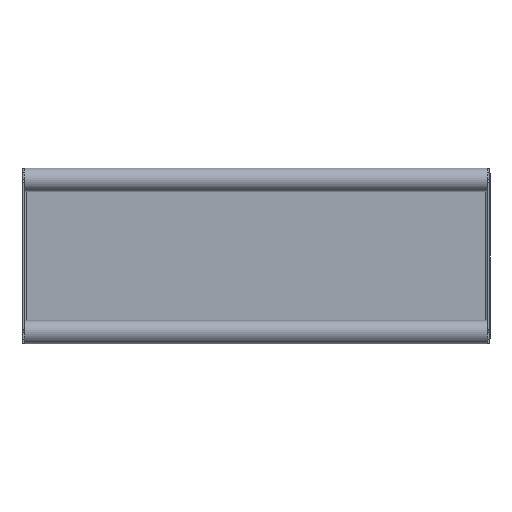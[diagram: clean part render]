
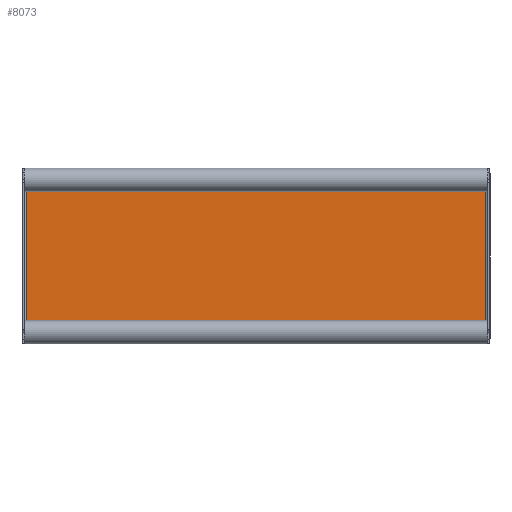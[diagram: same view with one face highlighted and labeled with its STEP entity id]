
A CAD part, front view. The second image highlights one B-rep face of the part: STEP entity #8073.
In plain terms, the highlighted planar face has unit normal (0, -1, 0).
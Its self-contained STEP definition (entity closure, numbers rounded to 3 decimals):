
#74 = DIRECTION ( 'NONE',  ( 0., 0., 1. ) ) ;
#166 = DIRECTION ( 'NONE',  ( 0., 0., 1. ) ) ;
#194 = DIRECTION ( 'NONE',  ( 0., 0., 1. ) ) ;
#230 = AXIS2_PLACEMENT_3D ( 'NONE', #394, #3504, #4335 ) ;
#317 = CARTESIAN_POINT ( 'NONE',  ( -199., -2., -74. ) ) ;
#394 = CARTESIAN_POINT ( 'NONE',  ( 199., -2., 74. ) ) ;
#583 = CARTESIAN_POINT ( 'NONE',  ( 196., -2., -70. ) ) ;
#712 = ORIENTED_EDGE ( 'NONE', *, *, #8067, .F. ) ;
#731 = DIRECTION ( 'NONE',  ( 0., -1., 0. ) ) ;
#843 = CARTESIAN_POINT ( 'NONE',  ( -199., -2., 71. ) ) ;
#874 = CARTESIAN_POINT ( 'NONE',  ( 195., -2., -71. ) ) ;
#1528 = CARTESIAN_POINT ( 'NONE',  ( -199., -2., -71. ) ) ;
#1535 = CIRCLE ( 'NONE', #6784, 5. ) ;
#1966 = VERTEX_POINT ( 'NONE', #874 ) ;
#1968 = VERTEX_POINT ( 'NONE', #583 ) ;
#2005 = AXIS2_PLACEMENT_3D ( 'NONE', #2313, #4849, #7141 ) ;
#2148 = LINE ( 'NONE', #4370, #5797 ) ;
#2250 = CARTESIAN_POINT ( 'NONE',  ( -196., -2., 70. ) ) ;
#2272 = ORIENTED_EDGE ( 'NONE', *, *, #8806, .T. ) ;
#2313 = CARTESIAN_POINT ( 'NONE',  ( -199., -2., -74. ) ) ;
#2323 = CARTESIAN_POINT ( 'NONE',  ( -196., -2., -74. ) ) ;
#2608 = CARTESIAN_POINT ( 'NONE',  ( 195., -2., 71. ) ) ;
#2750 = EDGE_CURVE ( 'NONE', #7307, #5551, #3148, .T. ) ;
#3148 = LINE ( 'NONE', #2323, #4255 ) ;
#3188 = FACE_OUTER_BOUND ( 'NONE', #5214, .T. ) ;
#3201 = VERTEX_POINT ( 'NONE', #7524 ) ;
#3287 = LINE ( 'NONE', #843, #6772 ) ;
#3415 = ORIENTED_EDGE ( 'NONE', *, *, #3912, .F. ) ;
#3486 = CARTESIAN_POINT ( 'NONE',  ( -199., -2., 74. ) ) ;
#3504 = DIRECTION ( 'NONE',  ( 0., -1., 0. ) ) ;
#3815 = ORIENTED_EDGE ( 'NONE', *, *, #8383, .T. ) ;
#3899 = PLANE ( 'NONE',  #2005 ) ;
#3912 = EDGE_CURVE ( 'NONE', #5551, #9307, #8024, .T. ) ;
#4142 = CIRCLE ( 'NONE', #6115, 5. ) ;
#4255 = VECTOR ( 'NONE', #194, 1000. ) ;
#4315 = DIRECTION ( 'NONE',  ( 0., 0., 1. ) ) ;
#4335 = DIRECTION ( 'NONE',  ( 0., 0., 1. ) ) ;
#4370 = CARTESIAN_POINT ( 'NONE',  ( 196., -2., -74. ) ) ;
#4639 = CARTESIAN_POINT ( 'NONE',  ( 199., -2., -74. ) ) ;
#4700 = DIRECTION ( 'NONE',  ( 1., 0., 0. ) ) ;
#4735 = ORIENTED_EDGE ( 'NONE', *, *, #8515, .F. ) ;
#4849 = DIRECTION ( 'NONE',  ( 0., 1., 0. ) ) ;
#5076 = VERTEX_POINT ( 'NONE', #2608 ) ;
#5214 = EDGE_LOOP ( 'NONE', ( #7903, #3815, #6238, #712, #3415, #6766, #4735, #2272 ) ) ;
#5437 = DIRECTION ( 'NONE',  ( 1., 0., 0. ) ) ;
#5548 = CARTESIAN_POINT ( 'NONE',  ( 196., -2., 70. ) ) ;
#5551 = VERTEX_POINT ( 'NONE', #2250 ) ;
#5624 = CIRCLE ( 'NONE', #230, 5. ) ;
#5797 = VECTOR ( 'NONE', #6732, 1000. ) ;
#5964 = VECTOR ( 'NONE', #5437, 1000. ) ;
#6115 = AXIS2_PLACEMENT_3D ( 'NONE', #317, #8146, #166 ) ;
#6238 = ORIENTED_EDGE ( 'NONE', *, *, #7943, .F. ) ;
#6315 = VERTEX_POINT ( 'NONE', #5548 ) ;
#6732 = DIRECTION ( 'NONE',  ( 0., 0., 1. ) ) ;
#6766 = ORIENTED_EDGE ( 'NONE', *, *, #2750, .F. ) ;
#6772 = VECTOR ( 'NONE', #4700, 1000. ) ;
#6784 = AXIS2_PLACEMENT_3D ( 'NONE', #4639, #731, #74 ) ;
#7141 = DIRECTION ( 'NONE',  ( 0., 0., 1. ) ) ;
#7307 = VERTEX_POINT ( 'NONE', #9243 ) ;
#7524 = CARTESIAN_POINT ( 'NONE',  ( -195., -2., -71. ) ) ;
#7903 = ORIENTED_EDGE ( 'NONE', *, *, #9442, .F. ) ;
#7943 = EDGE_CURVE ( 'NONE', #5076, #6315, #5624, .T. ) ;
#8024 = CIRCLE ( 'NONE', #9331, 5. ) ;
#8067 = EDGE_CURVE ( 'NONE', #9307, #5076, #3287, .T. ) ;
#8073 = ADVANCED_FACE ( 'NONE', ( #3188 ), #3899, .F. ) ;
#8146 = DIRECTION ( 'NONE',  ( 0., -1., 0. ) ) ;
#8383 = EDGE_CURVE ( 'NONE', #1968, #6315, #2148, .T. ) ;
#8515 = EDGE_CURVE ( 'NONE', #3201, #7307, #4142, .T. ) ;
#8642 = LINE ( 'NONE', #1528, #5964 ) ;
#8806 = EDGE_CURVE ( 'NONE', #3201, #1966, #8642, .T. ) ;
#9180 = CARTESIAN_POINT ( 'NONE',  ( -195., -2., 71. ) ) ;
#9243 = CARTESIAN_POINT ( 'NONE',  ( -196., -2., -70. ) ) ;
#9307 = VERTEX_POINT ( 'NONE', #9180 ) ;
#9331 = AXIS2_PLACEMENT_3D ( 'NONE', #3486, #9749, #4315 ) ;
#9442 = EDGE_CURVE ( 'NONE', #1968, #1966, #1535, .T. ) ;
#9749 = DIRECTION ( 'NONE',  ( 0., -1., 0. ) ) ;
